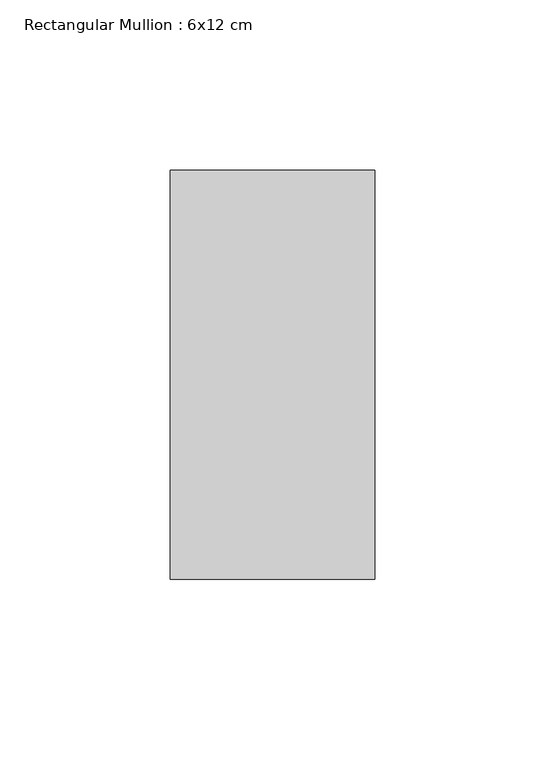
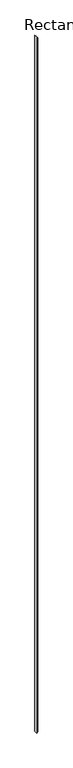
"""IFC4 building model written with IfcOpenShell, lengths in millimetres: member geometry, Rectangular Mullion : 6x12 cm."""

import ifcopenshell
import ifcopenshell.guid

model = None  # the IFC model being written
_history = None  # IfcOwnerHistory: only IFC2X3 demands one
_inside = {}  # id of a spatial element -> (the spatial element, [elements in it])
_under = {}  # id of a project, library or spatial element -> (it, [spatial elements below it])
_declared = {}  # id of a project -> (the project, [libraries it declares])
_typed = {}  # id of a type object -> (the type object, [elements of that type])
_made_of = {}  # id of a material, layer set ... -> (it, [elements and type objects made of it])


def new_model(schema):
    """Start an empty IFC model of exactly this schema.

    Asked for "IFC4X3", IfcOpenShell would pick the latest addendum, in which some entities
    have other attributes; the version numbers below select the first issue.
    IFC2X3 requires an IfcOwnerHistory on every rooted entity: one is made here for all.
    """
    global model, _history
    if schema == "IFC4X3":
        model = ifcopenshell.file(schema_version=(4, 3, 0, 0))
    else:
        model = ifcopenshell.file(schema=schema)
    _inside.clear()
    _under.clear()
    _declared.clear()
    _typed.clear()
    _made_of.clear()
    _history = None
    if model.schema == "IFC2X3":
        org = make("IfcOrganization", Name="unknown")
        user = make(
            "IfcPersonAndOrganization",
            ThePerson=make("IfcPerson", FamilyName="unknown"),
            TheOrganization=org,
        )
        app = make(
            "IfcApplication",
            ApplicationDeveloper=org,
            Version="unknown",
            ApplicationFullName="unknown",
            ApplicationIdentifier="unknown",
        )
        _history = make(
            "IfcOwnerHistory",
            OwningUser=user,
            OwningApplication=app,
            ChangeAction="ADDED",
            CreationDate=0,
        )
    return model


def make(cls, **values):
    """One entity of the class cls with the attributes given. An attribute that is None is left unset."""
    return model.create_entity(
        cls, **{name: value for name, value in values.items() if value is not None}
    )


def rooted(cls, **values):
    """An entity with a GlobalId (a new one), such as an element, a storey or a relation."""
    return make(cls, GlobalId=ifcopenshell.guid.new(), OwnerHistory=_history, **values)


def si_unit(unit_type, name, prefix=None):
    """IfcSIUnit, for example si_unit("LENGTHUNIT", "METRE", prefix="MILLI")."""
    return make("IfcSIUnit", UnitType=unit_type, Prefix=prefix, Name=name)


def assignment(units):
    """IfcUnitAssignment: the units of a project."""
    return None if units is None else make("IfcUnitAssignment", Units=units)


def point(xyz):
    """IfcCartesianPoint."""
    return None if xyz is None else make("IfcCartesianPoint", Coordinates=xyz)


def direction(xyz):
    """IfcDirection."""
    return None if xyz is None else make("IfcDirection", DirectionRatios=xyz)


def frame(location, z_axis=None, x_axis=None):
    """IfcAxis2Placement3D, a coordinate frame: its origin and axes. An axis left out is left unset."""
    return make(
        "IfcAxis2Placement3D",
        Location=point(location),
        Axis=direction(z_axis),
        RefDirection=direction(x_axis),
    )


def origin():
    """The frame at (0, 0, 0) with its axes left unset."""
    return frame((0.0, 0.0, 0.0))


def place(relative_to, where):
    """IfcLocalPlacement: puts the frame where relative to a parent placement (None: the world)."""
    return make(
        "IfcLocalPlacement", PlacementRelTo=relative_to, RelativePlacement=where
    )


def context(
    kind, dimensions, precision=None, world=None, true_north=None, identifier=None
):
    """IfcGeometricRepresentationContext, for example the 3D "Model" context."""
    return make(
        "IfcGeometricRepresentationContext",
        ContextIdentifier=identifier,
        ContextType=kind,
        CoordinateSpaceDimension=dimensions,
        Precision=precision,
        WorldCoordinateSystem=world,
        TrueNorth=true_north,
    )


def project(units=None, contexts=None):
    """IfcProject with its units and contexts."""
    return rooted(
        "IfcProject",
        Name="project",
        RepresentationContexts=contexts,
        UnitsInContext=assignment(units),
    )


def spatial(cls, under=None, at=None, **own):
    """A site, building, storey or space (cls), placed at a placement, below another one or the project."""
    s = rooted(cls, ObjectPlacement=at, **own)
    if under is not None:
        _under.setdefault(under.id(), (under, []))[1].append(s)
    return s


def polyline(points):
    """IfcPolyline through the points."""
    return make("IfcPolyline", Points=[point(p) for p in points])


def outline(outer, holes=None, kind="AREA"):
    """IfcArbitraryClosedProfileDef: a profile drawn as a closed curve; with holes, ...WithVoids."""
    if holes is None:
        return make("IfcArbitraryClosedProfileDef", ProfileType=kind, OuterCurve=outer)
    return make(
        "IfcArbitraryProfileDefWithVoids",
        ProfileType=kind,
        OuterCurve=outer,
        InnerCurves=holes,
    )


def extrude(swept, where, along, depth):
    """IfcExtrudedAreaSolid: the profile swept, set in the frame where, extruded along a direction by depth."""
    return make(
        "IfcExtrudedAreaSolid",
        SweptArea=swept,
        Position=where,
        ExtrudedDirection=direction(along),
        Depth=depth,
    )


def shape(context_of_items, identifier, shape_type, items):
    """IfcShapeRepresentation: the items that make up one representation, for example the "Body"."""
    return make(
        "IfcShapeRepresentation",
        ContextOfItems=context_of_items,
        RepresentationIdentifier=identifier,
        RepresentationType=shape_type,
        Items=items,
    )


def source(mapping_origin, context_of_items, identifier, shape_type, items):
    """IfcRepresentationMap: a shape defined once, which mapped items show again and again."""
    return make(
        "IfcRepresentationMap",
        MappingOrigin=mapping_origin,
        MappedRepresentation=shape(context_of_items, identifier, shape_type, items),
    )


def transform(
    local_origin,
    x_axis=None,
    y_axis=None,
    z_axis=None,
    scale=None,
    scale2=None,
    scale3=None,
    uniform=True,
):
    """IfcCartesianTransformationOperator3D, or its non-uniform kind. x_axis, y_axis, z_axis: its Axis1, 2, 3."""
    if uniform:
        return make(
            "IfcCartesianTransformationOperator3D",
            Axis1=direction(x_axis),
            Axis2=direction(y_axis),
            LocalOrigin=point(local_origin),
            Scale=scale,
            Axis3=direction(z_axis),
        )
    return make(
        "IfcCartesianTransformationOperator3DnonUniform",
        Axis1=direction(x_axis),
        Axis2=direction(y_axis),
        LocalOrigin=point(local_origin),
        Scale=scale,
        Axis3=direction(z_axis),
        Scale2=scale2,
        Scale3=scale3,
    )


def mapped(mapping_source, mapping_target):
    """IfcMappedItem: shows the shape of a source again, moved by a transform."""
    return make(
        "IfcMappedItem", MappingSource=mapping_source, MappingTarget=mapping_target
    )


def made_of(thing, what):
    """Note that an element or type object is made of a material, layer set ...; save() writes the relation."""
    if what is not None:
        _made_of.setdefault(what.id(), (what, []))[1].append(thing)
    return thing


def element(
    cls,
    number,
    at=None,
    inside=None,
    cuts=None,
    type_object=None,
    material=None,
    context=None,
    identifier="Body",
    shape_type=None,
    held_by="IfcProductDefinitionShape",
    body=None,
    shapes=None,
    **own,
):
    """One element of the class cls, such as IfcWall. Its Tag is "e" and its number.

    at: its placement. inside: the storey or other place that contains it. cuts: it is an
    opening in that element (IfcRelVoidsElement). A single representation is given by context,
    identifier, shape_type and body (its items); several are given by shapes. held_by: the class
    of the entity that holds the representations. save() writes the other relations.
    """
    e = rooted(cls, Tag="e%d" % number, ObjectPlacement=at, **own)
    if body is not None:
        shapes = [shape(context, identifier, shape_type, body)]
    if shapes is not None:
        e.Representation = make(held_by, Representations=shapes)
    if inside is not None:
        _inside.setdefault(inside.id(), (inside, []))[1].append(e)
    if cuts is not None:
        rooted(
            "IfcRelVoidsElement", RelatingBuildingElement=cuts, RelatedOpeningElement=e
        )
    if type_object is not None:
        _typed.setdefault(type_object.id(), (type_object, []))[1].append(e)
    return made_of(e, material)


def aggregate(whole, parts):
    """IfcRelAggregates: a whole, such as a stair, and the parts it consists of."""
    return rooted("IfcRelAggregates", RelatingObject=whole, RelatedObjects=parts)


def save(model, path):
    """Write the relations noted so far, then the file.

    IfcRelAggregates (storeys below a building ...), IfcRelContainedInSpatialStructure (elements
    in a storey), IfcRelDefinesByType, IfcRelAssociatesMaterial and IfcRelDeclares: one each for
    every whole, place, type object, material and project.
    """
    for whole, parts in _under.values():
        aggregate(whole, parts)
    for where, things in _inside.values():
        rooted(
            "IfcRelContainedInSpatialStructure",
            RelatedElements=things,
            RelatingStructure=where,
        )
    for kind, things in _typed.values():
        rooted("IfcRelDefinesByType", RelatedObjects=things, RelatingType=kind)
    for what, things in _made_of.values():
        rooted("IfcRelAssociatesMaterial", RelatedObjects=things, RelatingMaterial=what)
    for by, libraries in _declared.values():
        rooted("IfcRelDeclares", RelatingContext=by, RelatedDefinitions=libraries)
    model.write(path)


def rectangular_mullion_6x12_cm_729d8995(model_context):
    return source(origin(), model_context, "Body", "SweptSolid", [
        extrude(outline(polyline([(-104.1141863, 30.0), (-53.2294579, -30.0), (-31465.6449545, -30.0), (-31418.5294652, 30.0), (-104.1141863, 30.0)])), frame((0.0, 85.0, 0.0), z_axis=(0.0, 1.0, 0.0), x_axis=(0.0, 0.0, 1.0)), (0.0, 0.0, 1.0), 120.0),
    ])


if __name__ == "__main__":
    model = new_model("IFC4")
    model_context = context("Model", 3, world=origin())
    ifc_project = project(units=[si_unit("LENGTHUNIT", "METRE", prefix="MILLI")], contexts=[model_context])
    site = spatial("IfcSite", under=ifc_project)
    building = spatial("IfcBuilding", under=site)
    placement = place(None, origin())
    rectangular_mullion_6x12_cm_shape = rectangular_mullion_6x12_cm_729d8995(model_context)
    element("IfcMember", 1, ObjectType="Rectangular Mullion : 6x12 cm", at=placement, inside=building, context=model_context, shape_type="MappedRepresentation", body=[
        mapped(rectangular_mullion_6x12_cm_shape, transform((0.0, 0.0, 0.0), x_axis=(1.0, 0.0, 0.0), y_axis=(0.0, 1.0, 0.0), z_axis=(0.0, 0.0, 1.0))),
    ])
    save(model, "model.ifc")
